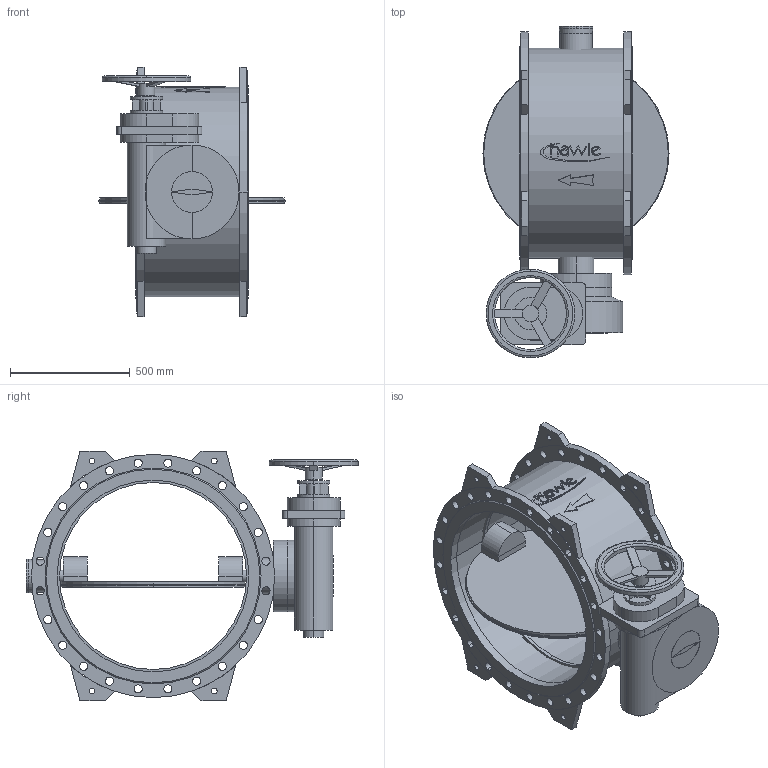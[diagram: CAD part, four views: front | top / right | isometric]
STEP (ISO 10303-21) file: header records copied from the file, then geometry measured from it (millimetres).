
FILE_DESCRIPTION(('STEP AP214'),'1');
FILE_NAME('S:/EK/USER/CAT6/3DHomepage_27-04-2012/neu_08-01-2013/9881K/9881K_PN10_DN800_7800.STP','2013-03-11T15:18:38',(' '),(' '),'Spatial InterOp 3D',' ',' ');
FILE_SCHEMA(('automotive_design'));
Length unit declared in the file: millimetre
Products named in the file (53): 3D-Objekt
Bounding box: 776 x 1385 x 1040 mm (x, y, z)
Volume: 130637523.1 mm3; surface area: 8397416.3 mm2
Topology: 53 solids, 53 shells, 475 faces, 1100 edges, 734 vertices
Faces by surface type: cylinder 233, plane 230, cone 8, torus 4
Entity records: 18983 total; most frequent: DIRECTION 2668, CARTESIAN_POINT 2362, ORIENTED_EDGE 2200, EDGE_CURVE 1100, AXIS2_PLACEMENT_3D 1040, VERTEX_POINT 734, EDGE_LOOP 608, LINE 588
